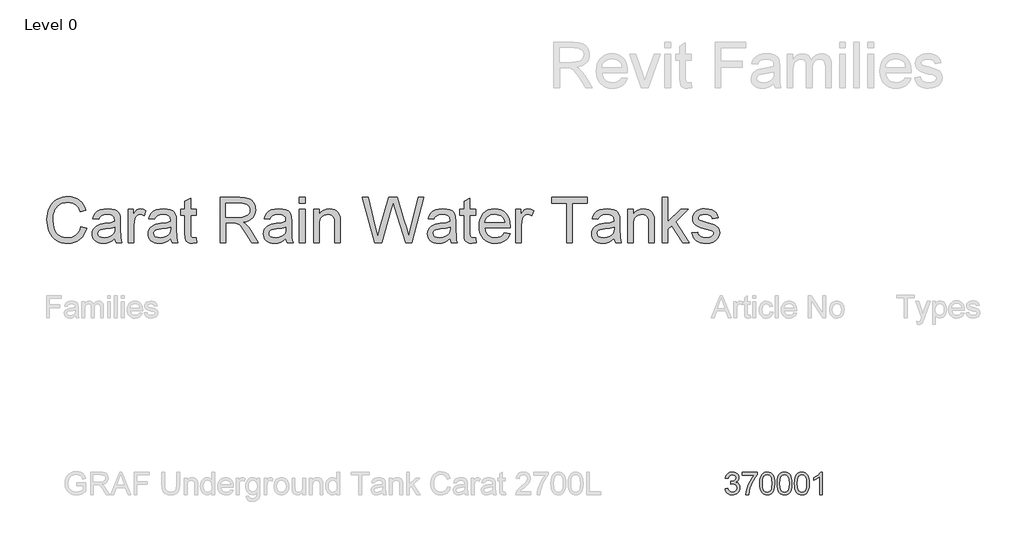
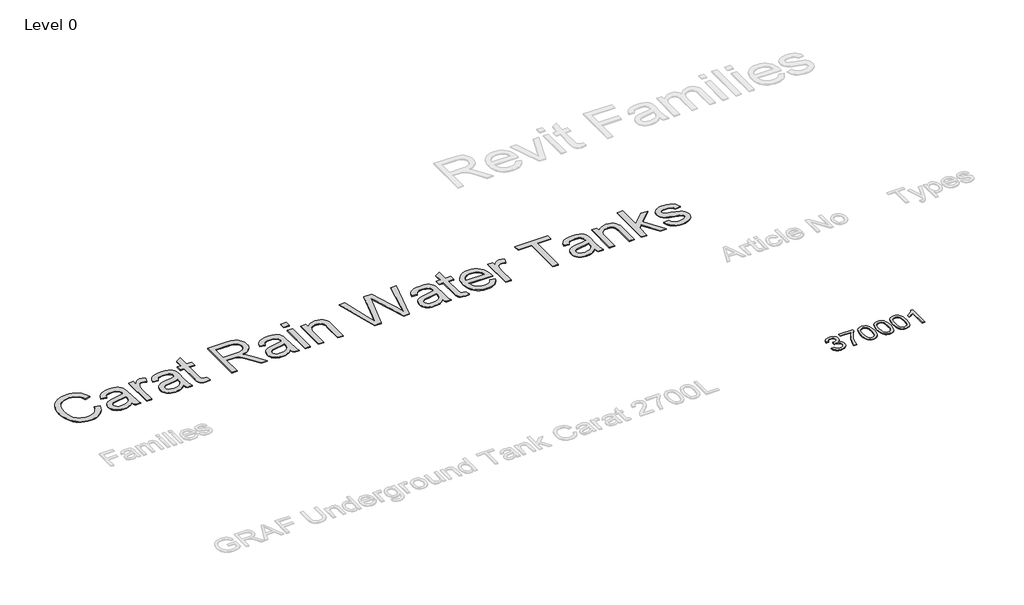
# One storey, part 18 of 19: 2 proxies.
"""IFC4 building model written with IfcOpenShell, lengths in millimetres."""

from ifc_helpers import new_model, si_unit, origin, origin_with_axes, place, context, project, spatial, polyline, outline, extrude, element, save

model = new_model("IFC4")

# Units and contexts
model_context = context("Model", 3, world=origin())
ifc_project = project(units=[si_unit("LENGTHUNIT", "METRE", prefix="MILLI")], contexts=[model_context])

# Site, building, storey
site = spatial("IfcSite", under=ifc_project)
building = spatial("IfcBuilding", under=site)
storey = spatial("IfcBuildingStorey", under=building, Name="Level 0", Elevation=0.0)

# Proxies
placement = place(None, origin())
element("IfcBuildingElementProxy", 1, Name="300mm Arial", ObjectType="300mm Arial", at=placement, inside=storey, context=model_context, shape_type="SweptSolid", body=[
    extrude(outline(polyline([(-6346.595864, 9379.074324), (-6308.9247477, 9383.7832135), (-6300.491053, 9360.1100071), (-6288.139415, 9344.1255344), (-6271.2628285, 9335.020455), (-6249.2542881, 9331.9854286), (-6223.428972, 9336.1608892), (-6203.4897679, 9348.6872712), (-6190.7426568, 9367.3756765), (-6186.4936197, 9390.0372074), (-6190.7058686, 9411.5491071), (-6203.3426151, 9428.9959107), (-6222.4724789, 9440.5566024), (-6246.1640793, 9444.4101663), (-6272.5780066, 9440.289888), (-6268.3841519, 9477.9610043), (-6262.3508871, 9477.5195459), (-6239.7813267, 9480.2234785), (-6219.6029993, 9488.3352765), (-6205.3659661, 9502.057275), (-6200.6202883, 9521.5918089), (-6204.059985, 9537.8613901), (-6214.379075, 9551.0591567), (-6230.1244244, 9559.8055512), (-6249.8428993, 9562.721016), (-6269.5981624, 9559.77796), (-6285.748182, 9550.9487921), (-6297.5388, 9536.2335123), (-6304.2158582, 9515.6321206), (-6341.8869745, 9520.3410101), (-6330.7953323, 9554.1677596), (-6311.0584633, 9579.4228585), (-6284.0559248, 9595.1498138), (-6251.1672745, 9600.3921323), (-6227.484871, 9597.8077613), (-6205.7338481, 9590.0546482), (-6187.3949306, 9577.8225719), (-6173.9488437, 9561.801311), (-6165.69909, 9543.3428319), (-6162.949172, 9523.7991009), (-6165.5611342, 9505.5889421), (-6173.3970207, 9489.0710405), (-6186.3464669, 9474.9995542), (-6204.2991083, 9464.1286413), (-6180.7178724, 9454.6004976), (-6163.2434776, 9438.3769016), (-6152.427747, 9416.3407701), (-6148.8225034, 9389.3750198), (-6150.6251252, 9370.2635502), (-6156.0329905, 9352.6603967), (-6165.0460994, 9336.5655594), (-6177.6644518, 9321.9790383), (-6193.0373207, 9309.8757207), (-6210.3139789, 9301.2304938), (-6229.4944264, 9296.0433577), (-6250.5786633, 9294.3143123), (-6269.6349506, 9295.7904388), (-6286.9989808, 9300.2188183), (-6302.6707538, 9307.5994508), (-6316.6502696, 9317.9323364), (-6328.3719097, 9330.6104696), (-6337.2700555, 9345.0268453), (-6343.3447069, 9361.1814634), (-6346.595864, 9379.074324)])), origin_with_axes(), (0.0, 0.0, 1.0), 10.0),
    extrude(outline(polyline([(-6115.8602767, 9558.0121264), (-6115.8602767, 9595.6832427), (-5918.086916, 9595.6832427), (-5918.086916, 9565.2226135), (-5946.2758739, 9529.547257), (-5974.1889203, 9484.17821), (-5998.8094228, 9433.2541448), (-6017.1207491, 9380.9137339), (-6026.0970698, 9341.7526956), (-6031.100265, 9299.0232018), (-6068.7713813, 9299.0232018), (-6064.6970882, 9337.8531464), (-6053.7985841, 9384.0039427), (-6036.3701745, 9432.923051), (-6012.7061652, 9480.0579316), (-5985.0782274, 9522.6678637), (-5955.7580324, 9558.0121264), (-6115.8602767, 9558.0121264)])), origin_with_axes(), (0.0, 0.0, 1.0), 10.0),
    extrude(outline(polyline([(-5885.1246893, 9447.2796459), (-5882.3563773, 9495.5181725), (-5874.0514412, 9533.9894321), (-5860.2926546, 9563.282036), (-5841.1627909, 9583.9845953), (-5816.5238942, 9596.290248), (-5786.238009, 9600.3921323), (-5763.0246551, 9597.9641111), (-5742.2393224, 9590.6800476), (-5724.8568981, 9578.8250503), (-5711.8522696, 9562.6842278), (-5702.0298203, 9542.3955357), (-5694.1939338, 9518.0969299), (-5689.06198, 9487.2408276), (-5687.3513287, 9447.2796459), (-5690.0920495, 9399.3170308), (-5698.3142121, 9360.9377416), (-5711.9902253, 9331.6175466), (-5731.0924979, 9310.8322139), (-5755.7865768, 9298.4437877), (-5786.238009, 9294.3143123), (-5806.9865535, 9296.107737), (-5825.3806533, 9301.4880112), (-5841.4203083, 9310.4551348), (-5855.1055185, 9323.0091079), (-5868.2389057, 9345.7028285), (-5877.6198966, 9373.9791583), (-5883.2484911, 9407.8380975), (-5885.1246893, 9447.2796459)]), holes=[polyline([(-5847.453573, 9447.3532223), (-5843.038989, 9388.0966299), (-5837.5207591, 9367.8286312), (-5829.7952372, 9353.8008309), (-5810.0767623, 9337.4392792), (-5786.238009, 9331.9854286), (-5762.3992557, 9337.4576733), (-5742.6807807, 9353.8744073), (-5734.9552588, 9367.9252003), (-5729.4370289, 9388.1886004), (-5725.022445, 9447.3532223), (-5729.2898761, 9505.2762424), (-5734.6241651, 9525.4775625), (-5742.0921696, 9539.8387559), (-5761.7738563, 9557.0004509), (-5786.6794674, 9562.721016), (-5810.2607033, 9557.6810326), (-5829.206626, 9542.5610826), (-5837.1896653, 9526.9260978), (-5842.8918362, 9505.8464595), (-5847.453573, 9447.3532223)])]), origin_with_axes(), (0.0, 0.0, 1.0), 10.0),
    extrude(outline(polyline([(-5654.3891019, 9447.2796459), (-5651.6207899, 9495.5181725), (-5643.3158539, 9533.9894321), (-5629.5570672, 9563.282036), (-5610.4272035, 9583.9845953), (-5585.7883069, 9596.290248), (-5555.5024216, 9600.3921323), (-5532.2890677, 9597.9641111), (-5511.503735, 9590.6800476), (-5494.1213107, 9578.8250503), (-5481.1166822, 9562.6842278), (-5471.2942329, 9542.3955357), (-5463.4583464, 9518.0969299), (-5458.3263926, 9487.2408276), (-5456.6157413, 9447.2796459), (-5459.3564622, 9399.3170308), (-5467.5786248, 9360.9377416), (-5481.2546379, 9331.6175466), (-5500.3569105, 9310.8322139), (-5525.0509895, 9298.4437877), (-5555.5024216, 9294.3143123), (-5576.2509661, 9296.107737), (-5594.6450659, 9301.4880112), (-5610.6847209, 9310.4551348), (-5624.3699311, 9323.0091079), (-5637.5033183, 9345.7028285), (-5646.8843092, 9373.9791583), (-5652.5129037, 9407.8380975), (-5654.3891019, 9447.2796459)]), holes=[polyline([(-5616.7179856, 9447.3532223), (-5612.3034017, 9388.0966299), (-5606.7851717, 9367.8286312), (-5599.0596498, 9353.8008309), (-5579.3411749, 9337.4392792), (-5555.5024216, 9331.9854286), (-5531.6636683, 9337.4576733), (-5511.9451934, 9353.8744073), (-5504.2196715, 9367.9252003), (-5498.7014415, 9388.1886004), (-5494.2868576, 9447.3532223), (-5498.5542887, 9505.2762424), (-5503.8885777, 9525.4775625), (-5511.3565822, 9539.8387559), (-5531.0382689, 9557.0004509), (-5555.94388, 9562.721016), (-5579.5251159, 9557.6810326), (-5598.4710386, 9542.5610826), (-5606.4540779, 9526.9260978), (-5612.1562489, 9505.8464595), (-5616.7179856, 9447.3532223)])]), origin_with_axes(), (0.0, 0.0, 1.0), 10.0),
    extrude(outline(polyline([(-5423.6535145, 9447.2796459), (-5420.8852025, 9495.5181725), (-5412.5802665, 9533.9894321), (-5398.8214799, 9563.282036), (-5379.6916161, 9583.9845953), (-5355.0527195, 9596.290248), (-5324.7668342, 9600.3921323), (-5301.5534803, 9597.9641111), (-5280.7681476, 9590.6800476), (-5263.3857233, 9578.8250503), (-5250.3810948, 9562.6842278), (-5240.5586455, 9542.3955357), (-5232.722759, 9518.0969299), (-5227.5908052, 9487.2408276), (-5225.8801539, 9447.2796459), (-5228.6208748, 9399.3170308), (-5236.8430374, 9360.9377416), (-5250.5190506, 9331.6175466), (-5269.6213231, 9310.8322139), (-5294.3154021, 9298.4437877), (-5324.7668342, 9294.3143123), (-5345.5153788, 9296.107737), (-5363.9094785, 9301.4880112), (-5379.9491335, 9310.4551348), (-5393.6343437, 9323.0091079), (-5406.767731, 9345.7028285), (-5416.1487218, 9373.9791583), (-5421.7773164, 9407.8380975), (-5423.6535145, 9447.2796459)]), holes=[polyline([(-5385.9823982, 9447.3532223), (-5381.5678143, 9388.0966299), (-5376.0495844, 9367.8286312), (-5368.3240625, 9353.8008309), (-5348.6055875, 9337.4392792), (-5324.7668342, 9331.9854286), (-5300.9280809, 9337.4576733), (-5281.209606, 9353.8744073), (-5273.4840841, 9367.9252003), (-5267.9658542, 9388.1886004), (-5263.5512702, 9447.3532223), (-5267.8187014, 9505.2762424), (-5273.1529903, 9525.4775625), (-5280.6209948, 9539.8387559), (-5300.3026815, 9557.0004509), (-5325.2082926, 9562.721016), (-5348.7895285, 9557.6810326), (-5367.7354513, 9542.5610826), (-5375.7184906, 9526.9260978), (-5381.4206615, 9505.8464595), (-5385.9823982, 9447.3532223)])]), origin_with_axes(), (0.0, 0.0, 1.0), 10.0),
    extrude(outline(polyline([(-5051.651241, 9299.0232018), (-5089.3223573, 9299.0232018), (-5089.3223573, 9533.8790675), (-5125.0069108, 9508.4584217), (-5164.6645899, 9489.4389225), (-5164.6645899, 9525.0498997), (-5135.0776805, 9541.1447369), (-5109.4455024, 9560.2929948), (-5089.2395839, 9580.6552632), (-5075.9314527, 9600.3921323), (-5051.651241, 9600.3921323), (-5051.651241, 9299.0232018)])), origin_with_axes(), (0.0, 0.0, 1.0), 10.0),
])
element("IfcBuildingElementProxy", 2, Name="600mm Arial", ObjectType="600mm Arial", at=placement, inside=storey, context=model_context, shape_type="SweptSolid", body=[
    extrude(outline(polyline([(-14925.4984397, 12868.0819293), (-14850.1562071, 12848.65776), (-14865.0646249, 12801.8033894), (-14884.9210556, 12760.8627218), (-14909.7254991, 12725.8357574), (-14939.4779555, 12696.722496), (-14973.50704, 12673.8356373), (-15011.1413681, 12657.4878812), (-15052.3809398, 12647.6792275), (-15097.225755, 12644.4096763), (-15143.1696177, 12646.8836827), (-15184.616123, 12654.3057019), (-15221.5652709, 12666.675734), (-15254.0170614, 12683.9937789), (-15282.4175514, 12706.0023193), (-15307.2127979, 12732.4438377), (-15328.4028008, 12763.3183341), (-15345.9875602, 12798.6258086), (-15359.7969306, 12836.8395509), (-15369.6607665, 12876.4328506), (-15375.5790681, 12917.4057078), (-15377.5518353, 12959.7581225), (-15375.3215507, 13005.200746), (-15368.630697, 13047.6451312), (-15357.479274, 13087.0912781), (-15341.8672818, 13123.5391868), (-15322.1442083, 13156.3864504), (-15298.6595415, 13185.0306623), (-15271.4132812, 13209.4718223), (-15240.4054275, 13229.7099306), (-15206.6890427, 13245.5794402), (-15171.3171888, 13256.9148041), (-15134.289866, 13263.7160225), (-15095.6070742, 13265.9830953), (-15052.514297, 13263.0492364), (-15012.9991722, 13254.2476597), (-14977.0616998, 13239.5783651), (-14944.7018798, 13219.0413527), (-14916.4531411, 13193.1792485), (-14892.8489126, 13162.5346783), (-14873.8891943, 13127.1076421), (-14859.5739861, 13086.8981401), (-14934.9162187, 13068.9454987), (-14946.7804131, 13098.5737949), (-14961.0358404, 13123.8886747), (-14977.6825007, 13144.8901381), (-14996.7203939, 13161.5781851), (-15018.2598848, 13174.2931065), (-15042.4113377, 13183.3751933), (-15069.1747529, 13188.8244453), (-15098.5501302, 13190.6408627), (-15132.3492885, 13188.6267088), (-15163.2605732, 13182.584247), (-15191.2839841, 13172.5134774), (-15216.4195215, 13158.4143999), (-15238.3498869, 13140.921611), (-15256.7577822, 13120.6697072), (-15271.6432075, 13097.6586884), (-15283.0061626, 13071.8885547), (-15297.4087427, 13016.7430436), (-15302.2096027, 12959.9052753), (-15296.5258259, 12890.3020018), (-15289.4211049, 12859.0320322), (-15279.4744954, 12830.1165074), (-15266.5250492, 12804.130243), (-15250.4118178, 12781.6480546), (-15231.1348013, 12762.6699421), (-15208.6939996, 12747.1959057), (-15184.1792631, 12735.1891571), (-15158.6804423, 12726.6129081), (-15132.1975372, 12721.4671587), (-15104.7305477, 12719.7519089), (-15071.9752546, 12722.0879595), (-15041.8411206, 12729.0961115), (-15014.3281459, 12740.7763649), (-14989.4363304, 12757.1287196), (-14967.7542853, 12778.0795992), (-14949.8706219, 12803.5554274), (-14935.78534, 12833.5562041), (-14925.4984397, 12868.0819293)])), origin_with_axes(), (0.0, 0.0, 1.0), 10.0),
    extrude(outline(polyline([(-14473.445044, 12710.3341298), (-14509.4422972, 12679.4688304), (-14546.5064082, 12659.2721089), (-14585.4835056, 12648.1252844), (-14627.219718, 12644.4096763), (-14660.7659574, 12646.6445594), (-14690.1827215, 12653.3492087), (-14715.4700101, 12664.5236243), (-14736.6278233, 12680.1678062), (-14753.3342645, 12699.2884729), (-14765.2674367, 12720.8923431), (-14772.42734, 12744.9794167), (-14774.8139744, 12771.5496938), (-14771.2087309, 12802.7828752), (-14760.3930002, 12831.146577), (-14743.7095518, 12855.4267887), (-14722.5011547, 12874.4094996), (-14697.5771496, 12888.7568975), (-14669.7468766, 12899.1311697), (-14604.5581871, 12910.4619352), (-14527.5236973, 12922.3813118), (-14473.8865024, 12936.3608276), (-14473.445044, 12953.1362466), (-14478.6321801, 12986.760661), (-14485.1161003, 12999.2134665), (-14494.1935885, 13008.7600043), (-14509.8837556, 13018.288148), (-14528.9952253, 13025.0939649), (-14577.4820722, 13030.5386184), (-14622.3636756, 13026.9149807), (-14653.7072216, 13016.0440678), (-14675.0811656, 12995.9393167), (-14690.0539628, 12964.6141649), (-14765.3961954, 12974.0319439), (-14752.3179904, 13015.2347274), (-14732.8018506, 13047.608343), (-14705.02676, 13072.3668012), (-14667.1717027, 13090.7241128), (-14620.8737536, 13102.0916665), (-14567.7699876, 13105.880851), (-14516.8367253, 13102.5331249), (-14476.4616764, 13092.4899464), (-14446.0194413, 13077.3883905), (-14424.8846206, 13058.865532), (-14410.8683166, 13035.9648778), (-14401.7816313, 13007.7299347), (-14398.1028114, 12941.8054812), (-14398.1028114, 12848.0691488), (-14394.2768386, 12717.1767349), (-14388.6114559, 12684.8215134), (-14379.2672532, 12653.8274553), (-14454.6094858, 12653.8274553), (-14466.6760153, 12680.0206534), (-14473.445044, 12710.3341298)]), holes=[polyline([(-14473.445044, 12861.018595), (-14524.0656065, 12848.473819), (-14594.9932552, 12837.9156057), (-14659.8140628, 12825.7019235), (-14676.6814522, 12817.3510022), (-14689.171046, 12805.8362957), (-14696.8965679, 12792.0407209), (-14699.4717418, 12776.8471945), (-14693.8615414, 12754.443181), (-14677.0309401, 12736.0858695), (-14649.34782, 12723.835399), (-14611.180063, 12719.7519089), (-14570.7130435, 12724.2584633), (-14534.9549136, 12737.7781266), (-14505.9658124, 12757.6989367), (-14485.805879, 12781.4089313), (-14476.8663466, 12805.8362957), (-14473.8865024, 12839.6814393), (-14473.445044, 12861.018595)])]), origin_with_axes(), (0.0, 0.0, 1.0), 10.0),
    extrude(outline(polyline([(-14294.5072415, 12653.8274553), (-14294.5072415, 13096.4630719), (-14228.582788, 13096.4630719), (-14228.582788, 13030.9800768), (-14204.2289999, 13068.9454987), (-14181.7881982, 13091.312724), (-14159.2738201, 13102.2388193), (-14134.6993028, 13105.880851), (-14097.1753393, 13100.0683155), (-14059.0627646, 13082.6307089), (-14084.2258931, 13015.0875746), (-14110.7133968, 13026.6758574), (-14137.2009004, 13030.5386184), (-14159.6968844, 13026.8230102), (-14179.8016354, 13015.6761858), (-14196.0436255, 12997.9442736), (-14206.9513267, 12974.4734023), (-14216.1115884, 12932.3877021), (-14219.1650089, 12886.4760291), (-14219.1650089, 12653.8274553), (-14294.5072415, 12653.8274553)])), origin_with_axes(), (0.0, 0.0, 1.0), 10.0),
    extrude(outline(polyline([(-13729.440497, 12710.3341298), (-13765.4377502, 12679.4688304), (-13802.5018612, 12659.2721089), (-13841.4789586, 12648.1252844), (-13883.2151709, 12644.4096763), (-13916.7614104, 12646.6445594), (-13946.1781744, 12653.3492087), (-13971.4654631, 12664.5236243), (-13992.6232763, 12680.1678062), (-14009.3297174, 12699.2884729), (-14021.2628896, 12720.8923431), (-14028.422793, 12744.9794167), (-14030.8094274, 12771.5496938), (-14027.2041838, 12802.7828752), (-14016.3884532, 12831.146577), (-13999.7050047, 12855.4267887), (-13978.4966077, 12874.4094996), (-13953.5726025, 12888.7568975), (-13925.7423296, 12899.1311697), (-13860.55364, 12910.4619352), (-13783.5191502, 12922.3813118), (-13729.8819553, 12936.3608276), (-13729.440497, 12953.1362466), (-13734.6276331, 12986.760661), (-13741.1115533, 12999.2134665), (-13750.1890415, 13008.7600043), (-13765.8792086, 13018.288148), (-13784.9906782, 13025.0939649), (-13833.4775252, 13030.5386184), (-13878.3591286, 13026.9149807), (-13909.7026746, 13016.0440678), (-13931.0766185, 12995.9393167), (-13946.0494157, 12964.6141649), (-14021.3916483, 12974.0319439), (-14008.3134434, 13015.2347274), (-13988.7973036, 13047.608343), (-13961.0222129, 13072.3668012), (-13923.1671556, 13090.7241128), (-13876.8692065, 13102.0916665), (-13823.7654405, 13105.880851), (-13772.8321783, 13102.5331249), (-13732.4571293, 13092.4899464), (-13702.0148942, 13077.3883905), (-13680.8800736, 13058.865532), (-13666.8637696, 13035.9648778), (-13657.7770843, 13007.7299347), (-13654.0982643, 12941.8054812), (-13654.0982643, 12848.0691488), (-13650.2722916, 12717.1767349), (-13644.6069089, 12684.8215134), (-13635.2627062, 12653.8274553), (-13710.6049388, 12653.8274553), (-13722.6714682, 12680.0206534), (-13729.440497, 12710.3341298)]), holes=[polyline([(-13729.440497, 12861.018595), (-13780.0610595, 12848.473819), (-13850.9887082, 12837.9156057), (-13915.8095157, 12825.7019235), (-13932.6769052, 12817.3510022), (-13945.1664989, 12805.8362957), (-13952.8920208, 12792.0407209), (-13955.4671948, 12776.8471945), (-13949.8569944, 12754.443181), (-13933.0263931, 12736.0858695), (-13905.3432729, 12723.835399), (-13867.1755159, 12719.7519089), (-13826.7084965, 12724.2584633), (-13790.9503665, 12737.7781266), (-13761.9612653, 12757.6989367), (-13741.801332, 12781.4089313), (-13732.8617995, 12805.8362957), (-13729.8819553, 12839.6814393), (-13729.440497, 12861.018595)])]), origin_with_axes(), (0.0, 0.0, 1.0), 10.0),
    extrude(outline(polyline([(-13390.4004502, 12716.6617001), (-13380.9826711, 12651.6201634), (-13437.3421928, 12644.4096763), (-13473.5049929, 12647.5366732), (-13500.4707432, 12656.9176641), (-13519.5270305, 12671.3754265), (-13531.9614419, 12689.7327381), (-13538.8040471, 12721.2602251), (-13541.0849154, 12775.2285137), (-13541.0849154, 13021.1208393), (-13597.5915899, 13021.1208393), (-13597.5915899, 13096.4630719), (-13541.0849154, 13096.4630719), (-13541.0849154, 13204.0317673), (-13465.7426828, 13248.3247595), (-13465.7426828, 13096.4630719), (-13390.4004502, 13096.4630719), (-13390.4004502, 13021.1208393), (-13465.7426828, 13021.1208393), (-13465.7426828, 12777.4358057), (-13461.7695573, 12738.587467), (-13448.8936874, 12724.8286804), (-13438.0227745, 12721.0211018), (-13423.2155242, 12719.7519089), (-13390.4004502, 12716.6617001)])), origin_with_axes(), (0.0, 0.0, 1.0), 10.0),
    extrude(outline(polyline([(-13070.1959616, 12653.8274553), (-13070.1959616, 13256.5653162), (-12810.471273, 13256.5653162), (-12740.6656644, 13252.5002202), (-12689.879555, 13240.304932), (-12670.2806417, 13230.6112415), (-12652.7602617, 13217.7905539), (-12637.3184149, 13201.8428694), (-12623.9551014, 13182.768188), (-12613.1715605, 13161.5919807), (-12605.4690312, 13139.3397185), (-12600.8475136, 13116.0114015), (-12599.3070078, 13091.6070296), (-12601.8591891, 13060.6497597), (-12609.5157331, 13032.2308756), (-12622.2766398, 13006.3503772), (-12640.1419092, 12983.0082646), (-12663.3414676, 12962.9494988), (-12692.1052411, 12946.9190409), (-12726.4332297, 12934.9168908), (-12766.3254336, 12926.9430486), (-12741.4933989, 12910.7194526), (-12723.5039693, 12894.7165858), (-12692.6386699, 12858.1123273), (-12662.4355581, 12817.1670612), (-12561.9301971, 12653.8274553), (-12649.4861119, 12653.8274553), (-12727.9185533, 12778.7601809), (-12784.5723805, 12861.4600534), (-12805.6336248, 12885.5747182), (-12824.3772124, 12900.5291213), (-12860.2089187, 12914.8765191), (-12903.9132998, 12917.5252695), (-12994.853729, 12917.5252695), (-12994.853729, 12653.8274553), (-13070.1959616, 12653.8274553)]), holes=[polyline([(-12994.853729, 12992.8675021), (-12826.2166224, 12992.8675021), (-12777.7849577, 12995.5346466), (-12740.2058119, 13003.5360799), (-12711.9156865, 13017.4052312), (-12691.351083, 13037.6755291), (-12678.824701, 13062.1948641), (-12674.6492404, 13088.8111264), (-12676.6404017, 13108.0789459), (-12682.6138856, 13125.5625378), (-12692.5696921, 13141.2619019), (-12706.5078212, 13155.1770384), (-12724.7501696, 13166.5721832), (-12747.6186341, 13174.7115723), (-12775.1132147, 13179.5952058), (-12807.2339114, 13181.2230836), (-12994.853729, 13181.2230836), (-12994.853729, 12992.8675021)])]), origin_with_axes(), (0.0, 0.0, 1.0), 10.0),
    extrude(outline(polyline([(-12194.3425075, 12710.3341298), (-12230.3397607, 12679.4688304), (-12267.4038717, 12659.2721089), (-12306.3809691, 12648.1252844), (-12348.1171815, 12644.4096763), (-12381.6634209, 12646.6445594), (-12411.0801849, 12653.3492087), (-12436.3674736, 12664.5236243), (-12457.5252868, 12680.1678062), (-12474.2317279, 12699.2884729), (-12486.1649002, 12720.8923431), (-12493.3248035, 12744.9794167), (-12495.7114379, 12771.5496938), (-12492.1061944, 12802.7828752), (-12481.2904637, 12831.146577), (-12464.6070152, 12855.4267887), (-12443.3986182, 12874.4094996), (-12418.474613, 12888.7568975), (-12390.6443401, 12899.1311697), (-12325.4556506, 12910.4619352), (-12248.4211608, 12922.3813118), (-12194.7839659, 12936.3608276), (-12194.3425075, 12953.1362466), (-12199.5296436, 12986.760661), (-12206.0135638, 12999.2134665), (-12215.091052, 13008.7600043), (-12230.7812191, 13018.288148), (-12249.8926888, 13025.0939649), (-12298.3795357, 13030.5386184), (-12343.2611391, 13026.9149807), (-12374.6046851, 13016.0440678), (-12395.978629, 12995.9393167), (-12410.9514262, 12964.6141649), (-12486.2936589, 12974.0319439), (-12473.2154539, 13015.2347274), (-12453.6993141, 13047.608343), (-12425.9242234, 13072.3668012), (-12388.0691661, 13090.7241128), (-12341.771217, 13102.0916665), (-12288.667451, 13105.880851), (-12237.7341888, 13102.5331249), (-12197.3591398, 13092.4899464), (-12166.9169047, 13077.3883905), (-12145.7820841, 13058.865532), (-12131.7657801, 13035.9648778), (-12122.6790948, 13007.7299347), (-12119.0002749, 12941.8054812), (-12119.0002749, 12848.0691488), (-12115.1743021, 12717.1767349), (-12109.5089194, 12684.8215134), (-12100.1647167, 12653.8274553), (-12175.5069493, 12653.8274553), (-12187.5734788, 12680.0206534), (-12194.3425075, 12710.3341298)]), holes=[polyline([(-12194.3425075, 12861.018595), (-12244.96307, 12848.473819), (-12315.8907187, 12837.9156057), (-12380.7115262, 12825.7019235), (-12397.5789157, 12817.3510022), (-12410.0685095, 12805.8362957), (-12417.7940314, 12792.0407209), (-12420.3692053, 12776.8471945), (-12414.7590049, 12754.443181), (-12397.9284036, 12736.0858695), (-12370.2452835, 12723.835399), (-12332.0775265, 12719.7519089), (-12291.610507, 12724.2584633), (-12255.8523771, 12737.7781266), (-12226.8632759, 12757.6989367), (-12206.7033425, 12781.4089313), (-12197.76381, 12805.8362957), (-12194.7839659, 12839.6814393), (-12194.3425075, 12861.018595)])]), origin_with_axes(), (0.0, 0.0, 1.0), 10.0),
    extrude(outline(polyline([(-12015.404705, 12653.8274553), (-12015.404705, 13096.4630719), (-11940.0624724, 13096.4630719), (-11940.0624724, 12653.8274553), (-12015.404705, 12653.8274553)])), origin_with_axes(), (0.0, 0.0, 1.0), 10.0),
    extrude(outline(polyline([(-12015.404705, 13181.2230836), (-12015.404705, 13256.5653162), (-11940.0624724, 13256.5653162), (-11940.0624724, 13181.2230836), (-12015.404705, 13181.2230836)])), origin_with_axes(), (0.0, 0.0, 1.0), 10.0),
    extrude(outline(polyline([(-11827.0491235, 12653.8274553), (-11827.0491235, 13096.4630719), (-11751.7068909, 13096.4630719), (-11751.7068909, 13034.6588967), (-11725.5320869, 13065.8185017), (-11694.0965704, 13088.0753624), (-11657.4003414, 13101.4294789), (-11615.4433999, 13105.880851), (-11578.3057125, 13102.2940016), (-11544.295022, 13091.5334532), (-11515.9313202, 13074.9419752), (-11495.7345986, 13053.8623369), (-11482.0309943, 13028.3497205), (-11473.1466441, 12998.4593084), (-11469.1735186, 12925.6186734), (-11469.1735186, 12653.8274553), (-11544.5157512, 12653.8274553), (-11544.5157512, 12915.4651303), (-11546.686255, 12954.4238336), (-11553.1977663, 12982.1253478), (-11565.2091134, 13001.9725815), (-11583.8791247, 13017.368443), (-11607.8098485, 13027.2460745), (-11635.6033332, 13030.5386184), (-11658.4809948, 13028.6900114), (-11679.7307785, 13023.1441903), (-11699.3526844, 13013.9011552), (-11717.3467125, 13000.960906), (-11732.3792906, 12982.8519148), (-11743.1168463, 12958.1026535), (-11749.5593797, 12926.7131223), (-11751.7068909, 12888.6833211), (-11751.7068909, 12653.8274553), (-11827.0491235, 12653.8274553)])), origin_with_axes(), (0.0, 0.0, 1.0), 10.0),
    extrude(outline(polyline([(-11012.8526918, 12653.8274553), (-11177.2223672, 13256.5653162), (-11099.5256898, 13256.5653162), (-11004.1706767, 12860.4299838), (-10974.7401171, 12738.1460086), (-10943.2494183, 12846.3033152), (-10823.7613462, 13256.5653162), (-10711.7780669, 13256.5653162), (-10624.9579161, 12959.1695113), (-10587.7650463, 12848.8049128), (-10560.3578377, 12738.1460086), (-10531.8101949, 12856.8983167), (-10435.5722649, 13256.5653162), (-10357.8755876, 13256.5653162), (-10522.3924158, 12653.8274553), (-10602.8849963, 12653.8274553), (-10747.3890441, 13118.8302972), (-10767.5489774, 13183.7246812), (-10790.2105083, 13105.5865454), (-10921.9122626, 12653.8274553), (-11012.8526918, 12653.8274553)])), origin_with_axes(), (0.0, 0.0, 1.0), 10.0),
    extrude(outline(polyline([(-10009.4177617, 12710.3341298), (-10045.415015, 12679.4688304), (-10082.479126, 12659.2721089), (-10121.4562234, 12648.1252844), (-10163.1924357, 12644.4096763), (-10196.7386751, 12646.6445594), (-10226.1554392, 12653.3492087), (-10251.4427278, 12664.5236243), (-10272.6005411, 12680.1678062), (-10289.3069822, 12699.2884729), (-10301.2401544, 12720.8923431), (-10308.4000577, 12744.9794167), (-10310.7866922, 12771.5496938), (-10307.1814486, 12802.7828752), (-10296.365718, 12831.146577), (-10279.6822695, 12855.4267887), (-10258.4738725, 12874.4094996), (-10233.5498673, 12888.7568975), (-10205.7195944, 12899.1311697), (-10140.5309048, 12910.4619352), (-10063.496415, 12922.3813118), (-10009.8592201, 12936.3608276), (-10009.4177617, 12953.1362466), (-10014.6048979, 12986.760661), (-10021.088818, 12999.2134665), (-10030.1663063, 13008.7600043), (-10045.8564733, 13018.288148), (-10064.967943, 13025.0939649), (-10113.45479, 13030.5386184), (-10158.3363934, 13026.9149807), (-10189.6799394, 13016.0440678), (-10211.0538833, 12995.9393167), (-10226.0266805, 12964.6141649), (-10301.3689131, 12974.0319439), (-10288.2907082, 13015.2347274), (-10268.7745683, 13047.608343), (-10240.9994777, 13072.3668012), (-10203.1444204, 13090.7241128), (-10156.8464713, 13102.0916665), (-10103.7427053, 13105.880851), (-10052.8094431, 13102.5331249), (-10012.4343941, 13092.4899464), (-9981.992159, 13077.3883905), (-9960.8573384, 13058.865532), (-9946.8410343, 13035.9648778), (-9937.7543491, 13007.7299347), (-9934.0755291, 12941.8054812), (-9934.0755291, 12848.0691488), (-9930.2495564, 12717.1767349), (-9924.5841736, 12684.8215134), (-9915.239971, 12653.8274553), (-9990.5822036, 12653.8274553), (-10002.648733, 12680.0206534), (-10009.4177617, 12710.3341298)]), holes=[polyline([(-10009.4177617, 12861.018595), (-10060.0383243, 12848.473819), (-10130.9659729, 12837.9156057), (-10195.7867805, 12825.7019235), (-10212.65417, 12817.3510022), (-10225.1437637, 12805.8362957), (-10232.8692856, 12792.0407209), (-10235.4444596, 12776.8471945), (-10229.8342591, 12754.443181), (-10213.0036579, 12736.0858695), (-10185.3205377, 12723.835399), (-10147.1527807, 12719.7519089), (-10106.6857613, 12724.2584633), (-10070.9276313, 12737.7781266), (-10041.9385301, 12757.6989367), (-10021.7785968, 12781.4089313), (-10012.8390643, 12805.8362957), (-10009.8592201, 12839.6814393), (-10009.4177617, 12861.018595)])]), origin_with_axes(), (0.0, 0.0, 1.0), 10.0),
    extrude(outline(polyline([(-9670.377715, 12716.6617001), (-9660.9599359, 12651.6201634), (-9717.3194576, 12644.4096763), (-9753.4822577, 12647.5366732), (-9780.4480079, 12656.9176641), (-9799.5042953, 12671.3754265), (-9811.9387067, 12689.7327381), (-9818.7813118, 12721.2602251), (-9821.0621802, 12775.2285137), (-9821.0621802, 13021.1208393), (-9877.5688547, 13021.1208393), (-9877.5688547, 13096.4630719), (-9821.0621802, 13096.4630719), (-9821.0621802, 13204.0317673), (-9745.7199476, 13248.3247595), (-9745.7199476, 13096.4630719), (-9670.377715, 13096.4630719), (-9670.377715, 13021.1208393), (-9745.7199476, 13021.1208393), (-9745.7199476, 12777.4358057), (-9741.746822, 12738.587467), (-9728.8709522, 12724.8286804), (-9718.0000392, 12721.0211018), (-9703.1927889, 12719.7519089), (-9670.377715, 12716.6617001)])), origin_with_axes(), (0.0, 0.0, 1.0), 10.0),
    extrude(outline(polyline([(-9285.1316896, 12785.6763624), (-9211.260985, 12776.2585833), (-9222.5871519, 12746.6716739), (-9237.8772473, 12720.5980375), (-9257.1312713, 12698.0376741), (-9280.3492237, 12678.9905838), (-9307.2919813, 12663.8614368), (-9337.7204208, 12653.0549031), (-9371.6345423, 12646.570983), (-9409.0343456, 12644.4096763), (-9455.7829501, 12648.13908), (-9497.436389, 12659.3272912), (-9533.9946623, 12677.9743098), (-9565.4577699, 12704.0801359), (-9590.7588542, 12736.9182025), (-9608.8310572, 12775.7619426), (-9619.674379, 12820.6113564), (-9623.2888196, 12871.4664437), (-9619.6375908, 12924.0459778), (-9608.6839044, 12970.3899122), (-9590.4277604, 13010.4982467), (-9564.8691588, 13044.3709814), (-9533.4888246, 13071.2815494), (-9497.7674828, 13090.5033836), (-9457.7051336, 13102.0364842), (-9413.3017767, 13105.880851), (-9370.3285612, 13102.0456812), (-9331.4664269, 13090.5401718), (-9296.7153739, 13071.3643228), (-9266.0754023, 13044.5181342), (-9241.0640251, 13010.7189759), (-9223.1987557, 12970.6842178), (-9212.4795941, 12924.4138598), (-9208.9065402, 12871.9079021), (-9209.3479986, 12851.6008159), (-9547.946587, 12851.6008159), (-9543.5825868, 12821.5356599), (-9534.9051702, 12795.2045061), (-9521.9143373, 12772.6073545), (-9504.6100879, 12753.7442052), (-9483.9489154, 12738.8725756), (-9460.8873128, 12728.249983), (-9435.4252802, 12721.8764274), (-9407.5628176, 12719.7519089), (-9367.4636801, 12723.6882462), (-9333.692113, 12735.4972583), (-9306.2481161, 12755.914709), (-9285.1316896, 12785.6763624)]), holes=[polyline([(-9547.946587, 12926.9430486), (-9284.2487728, 12926.9430486), (-9294.4391041, 12966.7478804), (-9303.2038926, 12982.4012593), (-9314.4150964, 12995.2219469), (-9334.9613059, 13010.6729907), (-9358.3402067, 13021.7094505), (-9384.5517988, 13028.3313264), (-9413.5960823, 13030.5386184), (-9440.0881845, 13028.7773833), (-9464.3821918, 13023.4936782), (-9486.4781041, 13014.6875029), (-9506.3759215, 13002.3588576), (-9523.0731656, 12987.0779592), (-9535.5673578, 12969.4150249), (-9543.8584983, 12949.3700547), (-9547.946587, 12926.9430486)])]), origin_with_axes(), (0.0, 0.0, 1.0), 10.0),
    extrude(outline(polyline([(-9133.5643076, 12653.8274553), (-9133.5643076, 13096.4630719), (-9067.6398541, 13096.4630719), (-9067.6398541, 13030.9800768), (-9043.286066, 13068.9454987), (-9020.8452643, 13091.312724), (-8998.3308862, 13102.2388193), (-8973.7563689, 13105.880851), (-8936.2324054, 13100.0683155), (-8898.1198307, 13082.6307089), (-8923.2829592, 13015.0875746), (-8949.7704628, 13026.6758574), (-8976.2579665, 13030.5386184), (-8998.7539505, 13026.8230102), (-9018.8587015, 13015.6761858), (-9035.1006916, 12997.9442736), (-9046.0083928, 12974.4734023), (-9055.1686544, 12932.3877021), (-9058.222075, 12886.4760291), (-9058.222075, 12653.8274553), (-9133.5643076, 12653.8274553)])), origin_with_axes(), (0.0, 0.0, 1.0), 10.0),
    extrude(outline(polyline([(-8455.4842141, 12653.8274553), (-8455.4842141, 13181.2230836), (-8653.2575747, 13181.2230836), (-8653.2575747, 13256.5653162), (-8182.3686209, 13256.5653162), (-8182.3686209, 13181.2230836), (-8380.1419815, 13181.2230836), (-8380.1419815, 12653.8274553), (-8455.4842141, 12653.8274553)])), origin_with_axes(), (0.0, 0.0, 1.0), 10.0),
    extrude(outline(polyline([(-7824.493016, 12710.3341298), (-7860.4902692, 12679.4688304), (-7897.5543802, 12659.2721089), (-7936.5314776, 12648.1252844), (-7978.26769, 12644.4096763), (-8011.8139294, 12646.6445594), (-8041.2306934, 12653.3492087), (-8066.5179821, 12664.5236243), (-8087.6757953, 12680.1678062), (-8104.3822364, 12699.2884729), (-8116.3154086, 12720.8923431), (-8123.475312, 12744.9794167), (-8125.8619464, 12771.5496938), (-8122.2567029, 12802.7828752), (-8111.4409722, 12831.146577), (-8094.7575237, 12855.4267887), (-8073.5491267, 12874.4094996), (-8048.6251215, 12888.7568975), (-8020.7948486, 12899.1311697), (-7955.6061591, 12910.4619352), (-7878.5716693, 12922.3813118), (-7824.9344744, 12936.3608276), (-7824.493016, 12953.1362466), (-7829.6801521, 12986.760661), (-7836.1640723, 12999.2134665), (-7845.2415605, 13008.7600043), (-7860.9317276, 13018.288148), (-7880.0431972, 13025.0939649), (-7928.5300442, 13030.5386184), (-7973.4116476, 13026.9149807), (-8004.7551936, 13016.0440678), (-8026.1291375, 12995.9393167), (-8041.1019347, 12964.6141649), (-8116.4441673, 12974.0319439), (-8103.3659624, 13015.2347274), (-8083.8498226, 13047.608343), (-8056.0747319, 13072.3668012), (-8018.2196746, 13090.7241128), (-7971.9217255, 13102.0916665), (-7918.8179595, 13105.880851), (-7867.8846973, 13102.5331249), (-7827.5096483, 13092.4899464), (-7797.0674132, 13077.3883905), (-7775.9325926, 13058.865532), (-7761.9162886, 13035.9648778), (-7752.8296033, 13007.7299347), (-7749.1507834, 12941.8054812), (-7749.1507834, 12848.0691488), (-7745.3248106, 12717.1767349), (-7739.6594279, 12684.8215134), (-7730.3152252, 12653.8274553), (-7805.6574578, 12653.8274553), (-7817.7239873, 12680.0206534), (-7824.493016, 12710.3341298)]), holes=[polyline([(-7824.493016, 12861.018595), (-7875.1135785, 12848.473819), (-7946.0412272, 12837.9156057), (-8010.8620347, 12825.7019235), (-8027.7294242, 12817.3510022), (-8040.2190179, 12805.8362957), (-8047.9445398, 12792.0407209), (-8050.5197138, 12776.8471945), (-8044.9095134, 12754.443181), (-8028.0789121, 12736.0858695), (-8000.395792, 12723.835399), (-7962.228035, 12719.7519089), (-7921.7610155, 12724.2584633), (-7886.0028856, 12737.7781266), (-7857.0137843, 12757.6989367), (-7836.853851, 12781.4089313), (-7827.9143185, 12805.8362957), (-7824.9344744, 12839.6814393), (-7824.493016, 12861.018595)])]), origin_with_axes(), (0.0, 0.0, 1.0), 10.0),
    extrude(outline(polyline([(-7645.5552135, 12653.8274553), (-7645.5552135, 13096.4630719), (-7570.2129809, 13096.4630719), (-7570.2129809, 13034.6588967), (-7544.0381769, 13065.8185017), (-7512.6026605, 13088.0753624), (-7475.9064314, 13101.4294789), (-7433.9494899, 13105.880851), (-7396.8118025, 13102.2940016), (-7362.801112, 13091.5334532), (-7334.4374102, 13074.9419752), (-7314.2406887, 13053.8623369), (-7300.5370843, 13028.3497205), (-7291.6527342, 12998.4593084), (-7287.6796086, 12925.6186734), (-7287.6796086, 12653.8274553), (-7363.0218412, 12653.8274553), (-7363.0218412, 12915.4651303), (-7365.192345, 12954.4238336), (-7371.7038563, 12982.1253478), (-7383.7152035, 13001.9725815), (-7402.3852147, 13017.368443), (-7426.3159385, 13027.2460745), (-7454.1094232, 13030.5386184), (-7476.9870848, 13028.6900114), (-7498.2368685, 13023.1441903), (-7517.8587745, 13013.9011552), (-7535.8528026, 13000.960906), (-7550.8853806, 12982.8519148), (-7561.6229363, 12958.1026535), (-7568.0654698, 12926.7131223), (-7570.2129809, 12888.6833211), (-7570.2129809, 12653.8274553), (-7645.5552135, 12653.8274553)])), origin_with_axes(), (0.0, 0.0, 1.0), 10.0),
    extrude(outline(polyline([(-7184.0840388, 12653.8274553), (-7184.0840388, 13256.5653162), (-7108.7418062, 13256.5653162), (-7108.7418062, 12932.6820077), (-6939.810394, 13096.4630719), (-6835.6262129, 13096.4630719), (-7006.6177643, 12930.6218685), (-6826.2084339, 12653.8274553), (-6914.2058071, 12653.8274553), (-7060.6228412, 12878.2354724), (-7108.7418062, 12831.5880354), (-7108.7418062, 12653.8274553), (-7184.0840388, 12653.8274553)])), origin_with_axes(), (0.0, 0.0, 1.0), 10.0),
    extrude(outline(polyline([(-6788.5373176, 12785.6763624), (-6713.1950849, 12795.0941415), (-6708.6425453, 12777.9140523), (-6701.3124965, 12762.8676787), (-6691.2049387, 12749.9550207), (-6678.3198718, 12739.1760782), (-6662.6205077, 12730.6780041), (-6644.070058, 12724.6079512), (-6598.4159024, 12719.7519089), (-6553.3135698, 12724.203281), (-6535.7839928, 12729.7674962), (-6521.6021419, 12737.5573974), (-6502.8401601, 12756.9079904), (-6498.1496647, 12767.7421151), (-6496.5861662, 12779.3487921), (-6498.1588617, 12789.5207293), (-6502.8769483, 12798.5522322), (-6521.7492947, 12813.1939356), (-6549.9658437, 12822.7588675), (-6599.2988192, 12834.6782442), (-6668.0559641, 12854.562266), (-6712.7536265, 12871.5400201), (-6741.4668163, 12890.0628785), (-6762.2705431, 12914.5822135), (-6774.9072896, 12943.5345265), (-6779.1195385, 12975.3563191), (-6775.7350241, 13004.5477554), (-6765.5814811, 13031.4951116), (-6749.5786143, 13055.1315298), (-6728.6461287, 13074.3901522), (-6707.8424019, 13086.511864), (-6680.747893, 13096.6838011), (-6649.4227411, 13103.5815885), (-6615.9270854, 13105.880851), (-6566.8884155, 13102.183637), (-6524.2508922, 13091.0919948), (-6489.9642903, 13073.6911764), (-6465.9783842, 13051.0664337), (-6450.085882, 13021.5439036), (-6440.0794917, 12983.449723), (-6515.4217243, 12974.0319439), (-6524.9314739, 12997.7419385), (-6543.748638, 13015.6026094), (-6572.0571575, 13026.8046161), (-6610.0409735, 13030.5386184), (-6653.3038961, 13026.970163), (-6682.1458445, 13016.264797), (-6698.3694405, 13000.8137532), (-6703.7773059, 12983.0082646), (-6701.5332257, 12971.4199818), (-6694.8009852, 12961.0824977), (-6683.2862787, 12951.8486596), (-6666.6948008, 12944.4542315), (-6601.8004168, 12928.4145765), (-6491.2150891, 12892.9507522), (-6462.0052586, 12875.9913922), (-6439.8587625, 12852.7780383), (-6425.8976408, 12823.2371141), (-6421.2439336, 12787.2950432), (-6426.7069812, 12750.1389617), (-6443.0961241, 12715.1901721), (-6469.7859628, 12685.1893954), (-6506.1510981, 12662.8773524), (-6550.0762083, 12649.0265953), (-6599.445972, 12644.4096763), (-6639.995765, 12646.6353623), (-6675.413604, 12653.3124205), (-6705.6994893, 12664.4408509), (-6730.8534207, 12680.0206534), (-6751.3996301, 12699.9782516), (-6767.8623494, 12724.2400692), (-6780.2415786, 12752.8061061), (-6788.5373176, 12785.6763624)])), origin_with_axes(), (0.0, 0.0, 1.0), 10.0),
])

save(model, "model.ifc")
